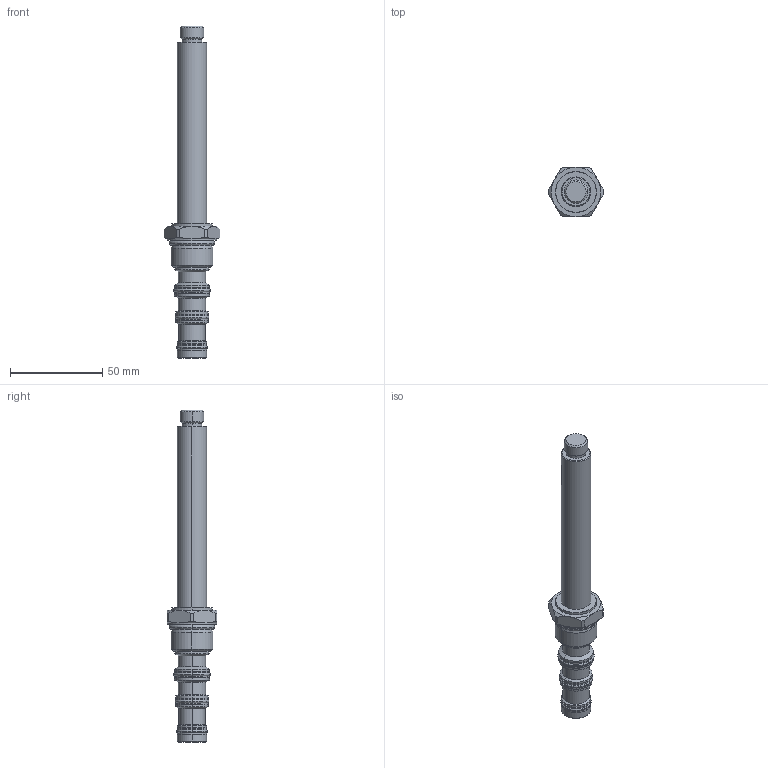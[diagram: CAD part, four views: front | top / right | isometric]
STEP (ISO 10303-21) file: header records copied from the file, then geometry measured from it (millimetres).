
FILE_DESCRIPTION((''),'2;1');
FILE_NAME('HSV10-47X','2014-04-10T',('mg1'),(''),'PRO/ENGINEER BY PARAMETRIC TECHNOLOGY CORPORATION, 2013230','PRO/ENGINEER BY PARAMETRIC TECHNOLOGY CORPORATION, 2013230','');
FILE_SCHEMA(('CONFIG_CONTROL_DESIGN'));
Length unit declared in the file: millimetre
Products named in the file (1): HSV10-47X
Bounding box: 30.23 x 26.92 x 179.88 mm (x, y, z)
Volume: 41767.2 mm3; surface area: 12050.5 mm2
Topology: 1 solids, 1 shells, 173 faces, 376 edges, 228 vertices
Faces by surface type: cylinder 74, cone 36, plane 31, torus 24, revolution 8
Entity records: 4923 total; most frequent: CARTESIAN_POINT 948, DIRECTION 928, ORIENTED_EDGE 752, AXIS2_PLACEMENT_3D 405, EDGE_CURVE 376, CIRCLE 240, VERTEX_POINT 228, EDGE_LOOP 196
